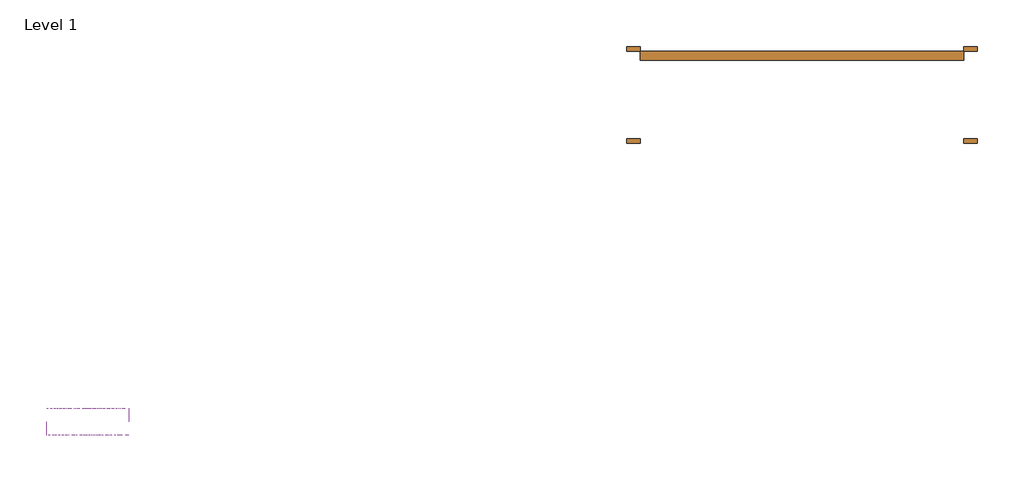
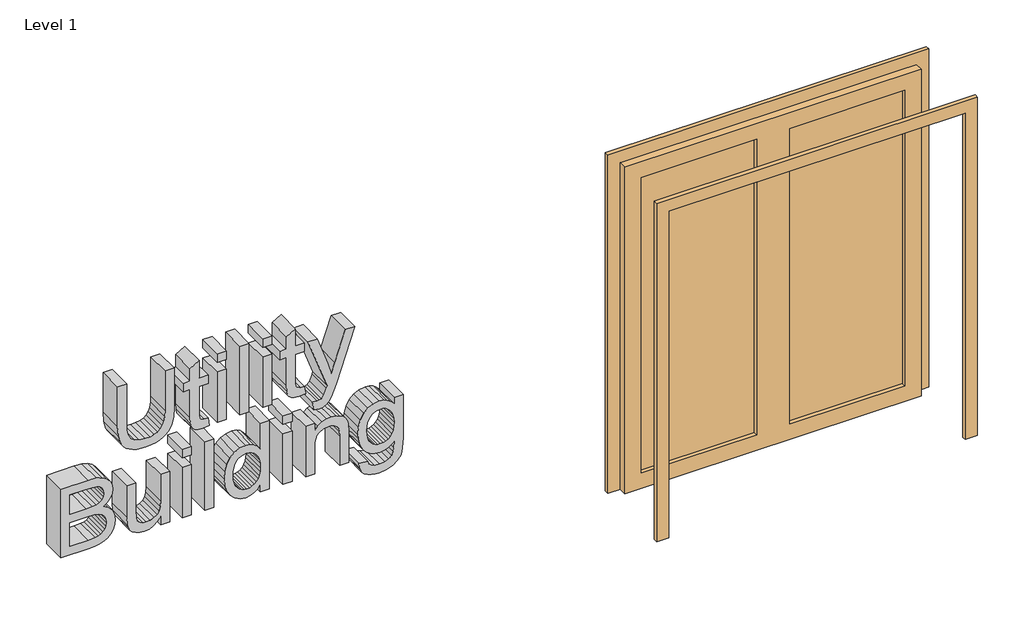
# One storey: 1 door, 1 proxy.
"""IFC4 building model written with IfcOpenShell, lengths in millimetres."""

from ifc_helpers import new_model, si_unit, frame, origin, place, context, project, spatial, polyline, outline, extrude, transform, mapped, element, save
from components import door_c0c9bc6f

model = new_model("IFC4")

# Units and contexts
model_context = context("Model", 3, world=origin())
ifc_project = project(units=[si_unit("LENGTHUNIT", "METRE", prefix="MILLI")], contexts=[model_context])

# Site, building, storey
site = spatial("IfcSite", under=ifc_project)
building = spatial("IfcBuilding", under=site)
storey = spatial("IfcBuildingStorey", under=building, Name="Level 1", Elevation=0.0)

# Proxy
placement = place(None, origin())
element("IfcBuildingElementProxy", 1, Name="18\" Arial 2", ObjectType="18\" Arial 2", at=placement, inside=storey, context=model_context, shape_type="SweptSolid", body=[
    extrude(outline(polyline([(2597.7825397, -6851.4478061), (2341.4247414, -6851.4478061), (2302.9984019, -6853.2174402), (2271.3499659, -6858.5263423), (2246.4794332, -6867.3745126), (2228.3868039, -6879.761951), (2215.5210861, -6896.3035882), (2206.3312876, -6917.6143551), (2200.8174085, -6943.6942516), (2198.9794488, -6974.5432777), (2202.6963636, -7010.4552337), (2213.8471079, -7040.3545334), (2231.8440813, -7063.2846179), (2256.0996832, -7078.2889283), (2291.1234059, -7086.5699957), (2341.4247414, -7089.3303516), (2597.7825397, -7089.3303516), (2597.7825397, -7145.3027152), (2339.456963, -7145.3027152), (2275.9004534, -7141.0528604), (2227.3482542, -7128.3032962), (2208.0360123, -7118.3824134), (2191.1493306, -7105.6191839), (2176.688209, -7090.013608), (2164.6526477, -7071.5656854), (2155.1827141, -7050.2719999), (2148.4184758, -7026.1291353), (2143.0070852, -6969.2958686), (2144.5614935, -6938.6996474), (2149.2247184, -6911.191745), (2156.9967598, -6886.7721616), (2167.8776179, -6865.440897), (2181.2352803, -6847.1774537), (2196.437735, -6831.9613338), (2213.484982, -6819.7925375), (2232.3770213, -6810.6710646), (2278.9614421, -6799.274348), (2339.456963, -6795.4754425), (2597.7825397, -6795.4754425), (2597.7825397, -6851.4478061)])), frame((0.0, -3081.1359239, 0.0), z_axis=(0.0, 1.0, 0.0), x_axis=(0.0, 0.0, 1.0)), (0.0, 0.0, 1.0), 152.4),
    extrude(outline(polyline([(2196.6837073, -6585.5790788), (2198.9794488, -6609.9576669), (2202.7510241, -6629.0341854), (2212.9725397, -6638.5997749), (2241.8332897, -6641.5514425), (2422.8689034, -6641.5514425), (2422.8689034, -6585.5790788), (2478.841267, -6585.5790788), (2478.841267, -6641.5514425), (2591.6605625, -6641.5514425), (2558.7549346, -6697.5238061), (2478.841267, -6697.5238061), (2478.841267, -6739.5030788), (2422.8689034, -6739.5030788), (2422.8689034, -6697.5238061), (2240.1934744, -6697.5238061), (2200.0999893, -6695.8293303), (2176.6779602, -6690.7459027), (2163.0401626, -6681.5082763), (2152.2993721, -6667.3512038), (2145.3301569, -6647.3181264), (2143.0070852, -6620.4524851), (2148.3638153, -6578.5825334), (2196.6837073, -6585.5790788)])), frame((0.0, -3081.1359239, 0.0), z_axis=(0.0, 1.0, 0.0), x_axis=(0.0, 0.0, 1.0)), (0.0, 0.0, 1.0), 152.4),
    extrude(outline(polyline([(-6473.6343516, -3081.1359239), (-6529.6067152, -3081.1359239), (-6529.6067152, -2928.7359239), (-6473.6343516, -2928.7359239), (-6473.6343516, -3081.1359239)])), frame((0.0, 0.0, 2150.0036306), z_axis=(0.0, 0.0, 1.0), x_axis=(1.0, 0.0, 0.0)), (0.0, 0.0, 1.0), 328.8376364),
    extrude(outline(polyline([(-6473.6343516, -3081.1359239), (-6529.6067152, -3081.1359239), (-6529.6067152, -2928.7359239), (-6473.6343516, -2928.7359239), (-6473.6343516, -3081.1359239)])), frame((0.0, 0.0, 2541.8101761), z_axis=(0.0, 0.0, 1.0), x_axis=(1.0, 0.0, 0.0)), (0.0, 0.0, 1.0), 55.9723636),
    extrude(outline(polyline([(-6333.7034425, -3081.1359239), (-6389.6758061, -3081.1359239), (-6389.6758061, -2928.7359239), (-6333.7034425, -2928.7359239), (-6333.7034425, -3081.1359239)])), frame((0.0, 0.0, 2150.0036306), z_axis=(0.0, 0.0, 1.0), x_axis=(1.0, 0.0, 0.0)), (0.0, 0.0, 1.0), 447.7789091),
    extrude(outline(polyline([(-6193.7725334, -3081.1359239), (-6249.744897, -3081.1359239), (-6249.744897, -2928.7359239), (-6193.7725334, -2928.7359239), (-6193.7725334, -3081.1359239)])), frame((0.0, 0.0, 2150.0036306), z_axis=(0.0, 0.0, 1.0), x_axis=(1.0, 0.0, 0.0)), (0.0, 0.0, 1.0), 328.8376364),
    extrude(outline(polyline([(-6193.7725334, -3081.1359239), (-6249.744897, -3081.1359239), (-6249.744897, -2928.7359239), (-6193.7725334, -2928.7359239), (-6193.7725334, -3081.1359239)])), frame((0.0, 0.0, 2541.8101761), z_axis=(0.0, 0.0, 1.0), x_axis=(1.0, 0.0, 0.0)), (0.0, 0.0, 1.0), 55.9723636),
    extrude(outline(polyline([(2196.6837073, -5990.8727152), (2198.9794488, -6015.2513033), (2202.7510241, -6034.3278217), (2212.9725397, -6043.8934112), (2241.8332897, -6046.8450788), (2422.8689034, -6046.8450788), (2422.8689034, -5990.8727152), (2478.841267, -5990.8727152), (2478.841267, -6046.8450788), (2591.6605625, -6046.8450788), (2558.7549346, -6102.8174425), (2478.841267, -6102.8174425), (2478.841267, -6144.7967152), (2422.8689034, -6144.7967152), (2422.8689034, -6102.8174425), (2240.1934744, -6102.8174425), (2200.0999893, -6101.1229666), (2176.6779602, -6096.0395391), (2163.0401626, -6086.8019126), (2152.2993721, -6072.6448402), (2145.3301569, -6052.6117628), (2143.0070852, -6025.7461214), (2148.3638153, -5983.8761697), (2196.6837073, -5990.8727152)])), frame((0.0, -3081.1359239, 0.0), z_axis=(0.0, 1.0, 0.0), x_axis=(0.0, 0.0, 1.0)), (0.0, 0.0, 1.0), 152.4),
    extrude(outline(polyline([(2024.0658125, -5934.9003516), (2017.069267, -5900.6828714), (2020.2122464, -5877.0968608), (2029.6411846, -5857.0637834), (2045.7933657, -5839.818392), (2069.1060738, -5824.5954396), (2142.132517, -5794.8601214), (2478.841267, -5680.4010107), (2478.841267, -5738.9970788), (2287.7481193, -5803.8244453), (2223.2487159, -5825.7979709), (2296.275159, -5847.7714964), (2478.841267, -5910.8497266), (2478.841267, -5969.8830788), (2151.2061619, -5850.9418061), (2137.6503551, -5855.314647), (2096.4363295, -5870.6195902), (2079.2182684, -5886.9084226), (2074.5857901, -5898.5237812), (2073.0416306, -5913.4734311), (2077.9610767, -5941.896897), (2024.0658125, -5934.9003516)])), frame((0.0, -3081.1359239, 0.0), z_axis=(0.0, 1.0, 0.0), x_axis=(0.0, 0.0, 1.0)), (0.0, 0.0, 1.0), 152.4),
    extrude(outline(polyline([(1602.7490852, -7495.1299879), (1602.7490852, -7325.5730817), (1604.6758682, -7286.3678299), (1610.4562173, -7253.8038303), (1619.9944765, -7227.0065146), (1633.19499, -7205.1013146), (1651.4242706, -7187.2136623), (1676.0488309, -7172.4689893), (1705.0052368, -7162.5891019), (1736.2300539, -7159.2958061), (1773.6998345, -7164.1195962), (1805.8675454, -7178.5909666), (1831.0660412, -7202.0266609), (1847.6281761, -7233.7434226), (1865.0785443, -7207.1920792), (1887.2570468, -7188.3205376), (1912.605859, -7177.0468072), (1939.5671562, -7173.288897), (1968.8651903, -7177.7573938), (1996.8513721, -7191.1628842), (2020.6423597, -7212.4531534), (2037.354811, -7240.5759865), (2047.2346985, -7277.2668548), (2050.5279943, -7324.2612294), (2050.5279943, -7495.1299879), (1602.7490852, -7495.1299879)]), holes=[polyline([(1868.6178125, -7439.1576243), (1994.5556306, -7439.1576243), (1994.5556306, -7344.7042607), (1993.093462, -7301.2491541), (1988.7069559, -7272.7710277), (1980.3848931, -7254.2137841), (1967.1160539, -7240.521326), (1950.1166349, -7232.076277), (1930.6028323, -7229.2612607), (1910.5014293, -7232.2812539), (1894.1442713, -7241.3412337), (1881.7226701, -7256.3592092), (1873.4279375, -7277.2531896), (1869.8203437, -7301.1944936), (1868.6178125, -7336.942468), (1868.6178125, -7439.1576243)]), polyline([(1658.7214488, -7439.1576243), (1812.6454488, -7439.1576243), (1812.6454488, -7329.8366016), (1810.7733263, -7289.9754236), (1805.1569588, -7260.6910547), (1794.921778, -7240.0157163), (1779.1932159, -7225.98163), (1759.0781477, -7217.9465348), (1735.6834488, -7215.2681697), (1715.5410504, -7217.5502461), (1697.967696, -7224.3964751), (1683.6056466, -7234.7819723), (1673.0971633, -7247.681853), (1665.7589897, -7263.5470664), (1660.9078693, -7282.8285618), (1658.7214488, -7324.3705504), (1658.7214488, -7439.1576243)])]), frame((0.0, -3081.1359239, 0.0), z_axis=(0.0, 1.0, 0.0), x_axis=(0.0, 0.0, 1.0)), (0.0, 0.0, 1.0), 152.4),
    extrude(outline(polyline([(1602.7490852, -6879.4339879), (1602.7490852, -6823.4616243), (1931.5867215, -6823.4616243), (1931.5867215, -6879.4339879), (1760.499321, -6879.4339879), (1724.4643789, -6881.7023991), (1698.1316775, -6888.5076328), (1678.9048426, -6900.7652525), (1664.1875, -6919.3908217), (1654.8405525, -6941.9792781), (1651.7249034, -6966.1255589), (1654.7722269, -6988.9599876), (1663.9141974, -7007.8315291), (1678.3855678, -7021.8109549), (1697.4210909, -7029.9690362), (1754.4866647, -7033.3579879), (1931.5867215, -7033.3579879), (1931.5867215, -7089.3303516), (1728.1402983, -7089.3303516), (1676.1034914, -7086.0507209), (1653.610691, -7079.4777944), (1634.8894659, -7069.3792649), (1619.4752017, -7054.3749545), (1606.903284, -7033.0846854), (1598.5402258, -7007.708543), (1595.7525397, -6980.4466129), (1599.7222594, -6950.1920199), (1611.6314183, -6923.271718), (1631.4800165, -6899.6857074), (1659.2680539, -6879.4339879), (1602.7490852, -6879.4339879)])), frame((0.0, -3081.1359239, 0.0), z_axis=(0.0, 1.0, 0.0), x_axis=(0.0, 0.0, 1.0)), (0.0, 0.0, 1.0), 152.4),
    extrude(outline(polyline([(-6690.5272607, -3081.1359239), (-6746.4996243, -3081.1359239), (-6746.4996243, -2928.7359239), (-6690.5272607, -2928.7359239), (-6690.5272607, -3081.1359239)])), frame((0.0, 0.0, 1602.7490852), z_axis=(0.0, 0.0, 1.0), x_axis=(1.0, 0.0, 0.0)), (0.0, 0.0, 1.0), 328.8376364),
    extrude(outline(polyline([(-6690.5272607, -3081.1359239), (-6746.4996243, -3081.1359239), (-6746.4996243, -2928.7359239), (-6690.5272607, -2928.7359239), (-6690.5272607, -3081.1359239)])), frame((0.0, 0.0, 1994.5556306), z_axis=(0.0, 0.0, 1.0), x_axis=(1.0, 0.0, 0.0)), (0.0, 0.0, 1.0), 55.9723636),
    extrude(outline(polyline([(-6550.5963516, -3081.1359239), (-6606.5687152, -3081.1359239), (-6606.5687152, -2928.7359239), (-6550.5963516, -2928.7359239), (-6550.5963516, -3081.1359239)])), frame((0.0, 0.0, 1602.7490852), z_axis=(0.0, 0.0, 1.0), x_axis=(1.0, 0.0, 0.0)), (0.0, 0.0, 1.0), 447.7789091),
    extrude(outline(polyline([(1602.7490852, -6263.7379879), (1602.7490852, -6207.7656243), (2050.5279943, -6207.7656243), (2050.5279943, -6263.7379879), (1883.7041136, -6263.7379879), (1905.8006253, -6280.0541506), (1923.3329843, -6300.5791726), (1934.7706963, -6324.7937791), (1938.583267, -6352.1786953), (1933.2538671, -6389.771462), (1917.2656676, -6423.6199837), (1891.2745944, -6451.6061655), (1855.9365738, -6471.6119126), (1813.6566683, -6483.62356), (1766.8399403, -6487.6274425), (1719.4356118, -6483.2819318), (1677.7979673, -6470.2453999), (1643.3208497, -6449.310424), (1617.3981022, -6421.2695817), (1601.1639304, -6388.1453118), (1595.7525397, -6351.9600533), (1599.4899522, -6324.5956348), (1610.7021896, -6300.7704844), (1629.3892519, -6280.4846021), (1655.5511392, -6263.7379879), (1602.7490852, -6263.7379879)]), holes=[polyline([(1767.0585823, -6431.6550788), (1795.0071851, -6430.179245), (1818.9450728, -6425.7517436), (1838.8722454, -6418.3725746), (1854.7887031, -6408.0417379), (1866.9609157, -6395.5039831), (1875.6553533, -6381.5040597), (1880.8720158, -6366.0419675), (1882.6109034, -6349.1177067), (1880.8002739, -6331.7937409), (1875.3683856, -6315.8977809), (1866.3152384, -6301.4298268), (1853.6408323, -6288.3898785), (1837.0991951, -6277.6046764), (1816.4443544, -6269.9009606), (1791.6763101, -6265.2787311), (1762.7950625, -6263.7379879), (1736.4521123, -6265.2514008), (1713.7235884, -6269.7916396), (1694.6094908, -6277.3587041), (1679.1098196, -6287.9525945), (1667.1289187, -6300.7124076), (1658.5711324, -6314.7772404), (1653.4364606, -6330.1470929), (1651.7249034, -6346.8219652), (1653.5184514, -6363.418263), (1658.8990955, -6378.8803551), (1667.8668356, -6393.2082417), (1680.4216718, -6406.4019226), (1696.5977669, -6417.4501784), (1716.4292837, -6425.3417898), (1739.9162222, -6430.0767566), (1767.0585823, -6431.6550788)])]), frame((0.0, -3081.1359239, 0.0), z_axis=(0.0, 1.0, 0.0), x_axis=(0.0, 0.0, 1.0)), (0.0, 0.0, 1.0), 152.4),
    extrude(outline(polyline([(-6067.8347152, -3081.1359239), (-6123.8070788, -3081.1359239), (-6123.8070788, -2928.7359239), (-6067.8347152, -2928.7359239), (-6067.8347152, -3081.1359239)])), frame((0.0, 0.0, 1602.7490852), z_axis=(0.0, 0.0, 1.0), x_axis=(1.0, 0.0, 0.0)), (0.0, 0.0, 1.0), 328.8376364),
    extrude(outline(polyline([(-6067.8347152, -3081.1359239), (-6123.8070788, -3081.1359239), (-6123.8070788, -2928.7359239), (-6067.8347152, -2928.7359239), (-6067.8347152, -3081.1359239)])), frame((0.0, 0.0, 1994.5556306), z_axis=(0.0, 0.0, 1.0), x_axis=(1.0, 0.0, 0.0)), (0.0, 0.0, 1.0), 55.9723636),
    extrude(outline(polyline([(1602.7490852, -5983.8761697), (1602.7490852, -5927.9038061), (1777.2254375, -5927.9038061), (1805.4780893, -5926.3084024), (1828.7976299, -5921.5221914), (1847.1840594, -5913.545173), (1860.6373778, -5902.3773473), (1877.117522, -5874.4321609), (1882.6109034, -5841.6495192), (1880.1648455, -5821.001511), (1872.8266718, -5803.2231797), (1861.3889598, -5789.3530749), (1846.6442869, -5780.4297464), (1826.0646044, -5775.5922912), (1797.1218636, -5773.9798061), (1602.7490852, -5773.9798061), (1602.7490852, -5718.0074425), (1804.6650142, -5718.0074425), (1858.7789204, -5720.9591101), (1880.9847532, -5727.5593668), (1899.9382855, -5737.7398871), (1915.598522, -5752.7441974), (1927.9244673, -5773.8158246), (1935.9185671, -5799.082646), (1938.583267, -5826.6725391), (1935.2763061, -5857.8426957), (1925.3554233, -5885.1046257), (1908.8206186, -5908.4583292), (1885.671892, -5927.9038061), (1931.5867215, -5927.9038061), (1931.5867215, -5983.8761697), (1602.7490852, -5983.8761697)])), frame((0.0, -3081.1359239, 0.0), z_axis=(0.0, 1.0, 0.0), x_axis=(0.0, 0.0, 1.0)), (0.0, 0.0, 1.0), 152.4),
    extrude(outline(polyline([(1574.7629034, -5655.0385334), (1550.1212616, -5653.3474738), (1528.7797482, -5647.0717638), (1510.7383631, -5636.2114035), (1495.9971065, -5620.7663928), (1484.5423131, -5601.6454626), (1476.3603178, -5579.7573441), (1471.4511206, -5555.1020372), (1469.8147215, -5527.6795419), (1474.460865, -5482.9809087), (1488.3992954, -5445.9620774), (1510.3318256, -5417.2516438), (1538.9602684, -5397.4782038), (1557.7464029, -5390.7822912), (1582.1284073, -5385.9994964), (1647.6800255, -5382.1732607), (1931.5867215, -5382.1732607), (1931.5867215, -5438.1456243), (1889.6074488, -5438.1456243), (1911.0343693, -5457.0649938), (1926.3393125, -5478.4030909), (1935.5222784, -5502.1599157), (1938.583267, -5528.335468), (1933.1718764, -5566.6661516), (1916.9377045, -5599.6674354), (1890.7689847, -5626.4237557), (1855.5539502, -5646.019549), (1813.9982965, -5658.0311964), (1768.8077187, -5662.0350788), (1735.8610955, -5659.8042467), (1705.346865, -5653.1117504), (1677.2650273, -5641.9575898), (1651.6155823, -5626.3417649), (1630.2364898, -5606.6605645), (1614.9657095, -5583.3102773), (1605.8032413, -5556.2909033), (1602.7490852, -5525.6024425), (1605.3727897, -5500.4996026), (1613.2439034, -5477.555853), (1626.3624261, -5456.7711935), (1644.7283579, -5438.1456243), (1603.5416626, -5438.9382017), (1579.4637073, -5441.9718601), (1556.8342556, -5452.3573572), (1539.8894971, -5469.3021158), (1529.3126882, -5493.7353643), (1525.7870852, -5526.5863317), (1528.9027343, -5557.3875298), (1538.2496818, -5580.91888), (1550.2749943, -5592.889532), (1567.7663579, -5599.0661697), (1574.7629034, -5655.0385334)]), holes=[polyline([(1772.6339545, -5606.0627152), (1798.2321552, -5604.5493023), (1820.4755671, -5600.0090636), (1839.36419, -5592.441999), (1854.8980241, -5581.8481087), (1867.0224088, -5569.0951281), (1875.6826836, -5555.050793), (1880.8788484, -5539.7151032), (1882.6109034, -5523.0880589), (1880.8515182, -5506.1774632), (1875.5733625, -5490.5377244), (1866.7764365, -5476.1688425), (1854.46074, -5463.0708175), (1838.6877662, -5452.1660455), (1819.5190081, -5444.3769226), (1796.9544658, -5439.7034489), (1770.9941392, -5438.1456243), (1743.9030232, -5439.6590372), (1720.6791385, -5444.1992759), (1701.3224849, -5451.7663405), (1685.8330625, -5462.3602308), (1673.9717315, -5475.181537), (1665.4993522, -5489.4308491), (1660.4159247, -5505.108167), (1658.7214488, -5522.2134908), (1660.4261735, -5539.4896286), (1665.5403476, -5555.2421048), (1674.0639711, -5569.4709191), (1685.997044, -5582.1760717), (1701.6401991, -5592.6264782), (1721.2940692, -5600.0910543), (1744.9586543, -5604.5698), (1772.6339545, -5606.0627152)])]), frame((0.0, -3081.1359239, 0.0), z_axis=(0.0, 1.0, 0.0), x_axis=(0.0, 0.0, 1.0)), (0.0, 0.0, 1.0), 152.4),
])

# Door
door_shape = door_c0c9bc6f(model_context)
element("IfcDoor", 2, ObjectType="Double-Glass 1 : 72\" x 84\"", at=placement, inside=storey, context=model_context, shape_type="MappedRepresentation", body=[
    mapped(door_shape, transform((-1873.6845581, -1159.4671739, -914.4), x_axis=(1.0, 0.0, 0.0), y_axis=(0.0, 1.0, 0.0), z_axis=(0.0, 0.0, 1.0))),
])

save(model, "model.ifc")
